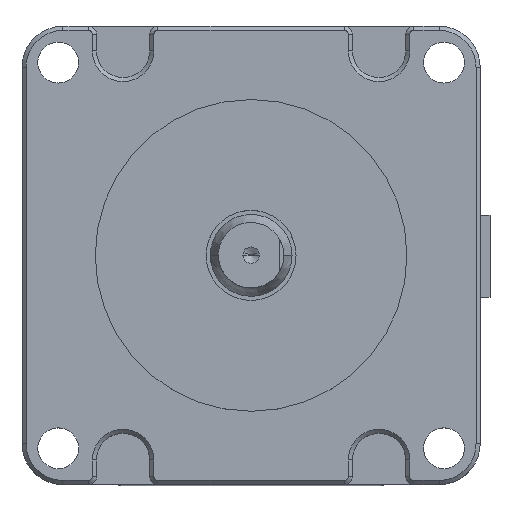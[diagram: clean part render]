
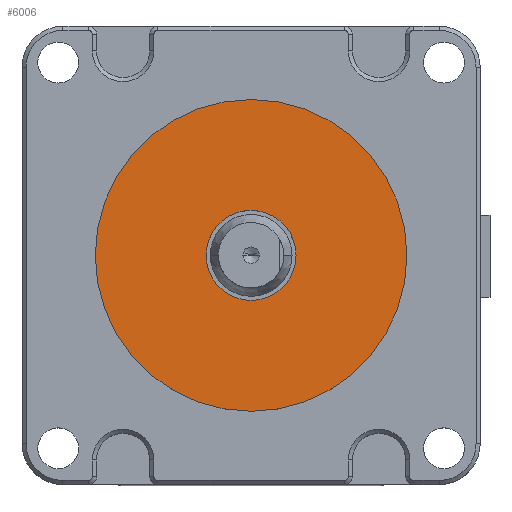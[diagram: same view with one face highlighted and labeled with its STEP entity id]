
A CAD part, top view. The second image highlights one B-rep face of the part: STEP entity #6006.
In plain terms, the highlighted planar face has unit normal (0, 0, 1).
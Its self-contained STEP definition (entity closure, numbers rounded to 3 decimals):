
#145=CARTESIAN_POINT('',(28.,28.,56.6));
#146=DIRECTION('',(0.,0.,-1.));
#147=DIRECTION('',(-1.,0.,0.));
#148=AXIS2_PLACEMENT_3D('',#145,#146,#147);
#150=CARTESIAN_POINT('',(28.,28.,56.6));
#151=DIRECTION('',(0.,0.,-1.));
#152=DIRECTION('',(1.,0.,0.));
#153=AXIS2_PLACEMENT_3D('',#150,#151,#152);
#155=CARTESIAN_POINT('',(28.,28.,56.6));
#156=DIRECTION('',(0.,0.,1.));
#157=DIRECTION('',(-1.,0.,0.));
#158=AXIS2_PLACEMENT_3D('',#155,#156,#157);
#160=CARTESIAN_POINT('',(28.,28.,56.6));
#161=DIRECTION('',(0.,0.,1.));
#162=DIRECTION('',(1.,0.,0.));
#163=AXIS2_PLACEMENT_3D('',#160,#161,#162);
#5037=CARTESIAN_POINT('',(33.5,28.,56.6));
#5038=VERTEX_POINT('',#5037);
#5039=CARTESIAN_POINT('',(22.5,28.,56.6));
#5040=VERTEX_POINT('',#5039);
#5041=CARTESIAN_POINT('',(8.95,28.,56.6));
#5042=CARTESIAN_POINT('',(47.05,28.,56.6));
#5043=VERTEX_POINT('',#5041);
#5044=VERTEX_POINT('',#5042);
#5991=CARTESIAN_POINT('',(0.,0.,56.6));
#5992=DIRECTION('',(0.,0.,1.));
#5993=DIRECTION('',(1.,0.,0.));
#5994=AXIS2_PLACEMENT_3D('',#5991,#5992,#5993);
#5995=PLANE('',#5994);
#5997=ORIENTED_EDGE('',*,*,#5996,.T.);
#5999=ORIENTED_EDGE('',*,*,#5998,.T.);
#6000=EDGE_LOOP('',(#5997,#5999));
#6001=FACE_OUTER_BOUND('',#6000,.F.);
#6002=ORIENTED_EDGE('',*,*,#5970,.T.);
#6003=ORIENTED_EDGE('',*,*,#5984,.T.);
#6004=EDGE_LOOP('',(#6002,#6003));
#6005=FACE_BOUND('',#6004,.F.);
#6006=ADVANCED_FACE('',(#6001,#6005),#5995,.T.);
#149=CIRCLE('',#148,19.05);
#154=CIRCLE('',#153,19.05);
#159=CIRCLE('',#158,5.5);
#164=CIRCLE('',#163,5.5);
#5970=EDGE_CURVE('',#5040,#5038,#159,.T.);
#5984=EDGE_CURVE('',#5038,#5040,#164,.T.);
#5996=EDGE_CURVE('',#5043,#5044,#149,.T.);
#5998=EDGE_CURVE('',#5044,#5043,#154,.T.);
